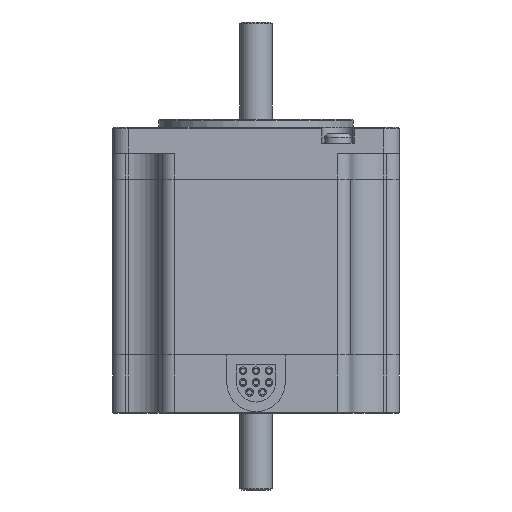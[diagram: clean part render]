
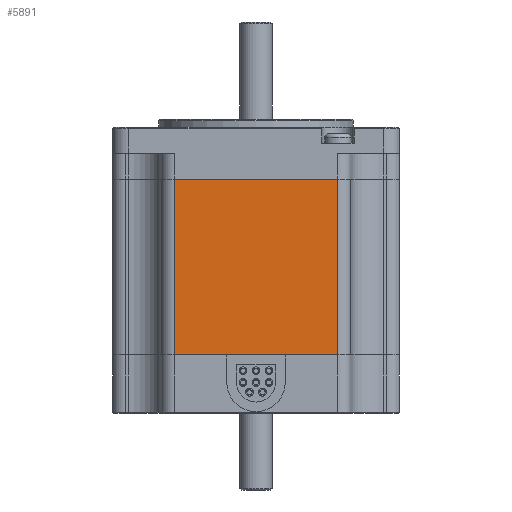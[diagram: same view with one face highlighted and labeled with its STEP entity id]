
A CAD part, front view. The second image highlights one B-rep face of the part: STEP entity #5891.
In plain terms, the highlighted planar face has unit normal (0, -1, 0).
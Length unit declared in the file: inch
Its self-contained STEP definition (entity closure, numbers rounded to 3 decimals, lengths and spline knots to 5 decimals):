
#144 = EDGE_CURVE ( 'NONE', #148, #147, #6788, .T. ) ;
#147 = VERTEX_POINT ( 'NONE', #6782 ) ;
#148 = VERTEX_POINT ( 'NONE', #6786 ) ;
#5857 = ORIENTED_EDGE ( 'NONE', *, *, #5913, .F. ) ;
#5860 = ORIENTED_EDGE ( 'NONE', *, *, #144, .T. ) ;
#5885 = EDGE_LOOP ( 'NONE', ( #5860, #5857, #5903, #5919 ) ) ;
#5891 = ADVANCED_FACE ( 'NONE', ( #6516 ), #6396, .F. ) ;
#5903 = ORIENTED_EDGE ( 'NONE', *, *, #5910, .F. ) ;
#5908 = VERTEX_POINT ( 'NONE', #6690 ) ;
#5910 = EDGE_CURVE ( 'NONE', #5931, #5908, #6682, .T. ) ;
#5913 = EDGE_CURVE ( 'NONE', #5908, #147, #6662, .T. ) ;
#5919 = ORIENTED_EDGE ( 'NONE', *, *, #5929, .T. ) ;
#5929 = EDGE_CURVE ( 'NONE', #5931, #148, #6657, .T. ) ;
#5931 = VERTEX_POINT ( 'NONE', #6722 ) ;
#6396 = PLANE ( 'NONE',  #6452 ) ;
#6452 = AXIS2_PLACEMENT_3D ( 'NONE', #6561, #6560, #6558 ) ;
#6516 = FACE_OUTER_BOUND ( 'NONE', #5885, .T. ) ;
#6558 = DIRECTION ( 'NONE',  ( -1., 0., 0. ) ) ;
#6560 = DIRECTION ( 'NONE',  ( 0., 1., 0. ) ) ;
#6561 = CARTESIAN_POINT ( 'NONE',  ( 0.63, -1.104, -1.754 ) ) ;
#6653 = DIRECTION ( 'NONE',  ( 0., 0., 1. ) ) ;
#6654 = VECTOR ( 'NONE', #6653, 39.37008 ) ;
#6657 = LINE ( 'NONE', #6717, #6716 ) ;
#6661 = CARTESIAN_POINT ( 'NONE',  ( -0.63, -1.104, -1.754 ) ) ;
#6662 = LINE ( 'NONE', #6661, #6654 ) ;
#6665 = DIRECTION ( 'NONE',  ( -1., 0., 0. ) ) ;
#6666 = VECTOR ( 'NONE', #6665, 39.37008 ) ;
#6668 = CARTESIAN_POINT ( 'NONE',  ( 0.63, -1.104, -1.754 ) ) ;
#6682 = LINE ( 'NONE', #6668, #6666 ) ;
#6690 = CARTESIAN_POINT ( 'NONE',  ( -0.63, -1.104, -1.754 ) ) ;
#6715 = DIRECTION ( 'NONE',  ( 0., 0., 1. ) ) ;
#6716 = VECTOR ( 'NONE', #6715, 39.37008 ) ;
#6717 = CARTESIAN_POINT ( 'NONE',  ( 0.63, -1.104, -1.754 ) ) ;
#6722 = CARTESIAN_POINT ( 'NONE',  ( 0.63, -1.104, -1.754 ) ) ;
#6782 = CARTESIAN_POINT ( 'NONE',  ( -0.63, -1.104, -0.4 ) ) ;
#6786 = CARTESIAN_POINT ( 'NONE',  ( 0.63, -1.104, -0.4 ) ) ;
#6787 = CARTESIAN_POINT ( 'NONE',  ( 0.63, -1.104, -0.4 ) ) ;
#6788 = LINE ( 'NONE', #6787, #6894 ) ;
#6892 = DIRECTION ( 'NONE',  ( -1., 0., 0. ) ) ;
#6894 = VECTOR ( 'NONE', #6892, 39.37008 ) ;
